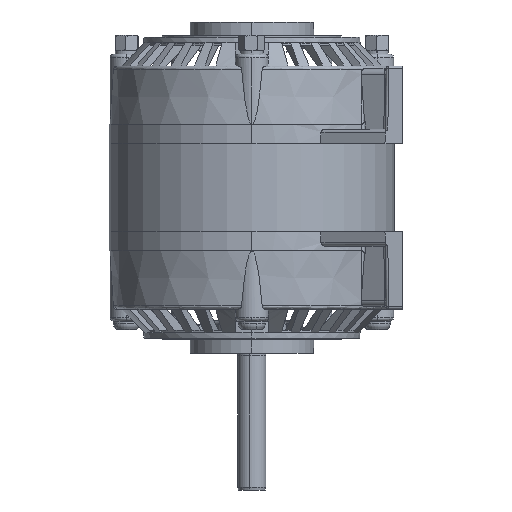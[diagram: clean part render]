
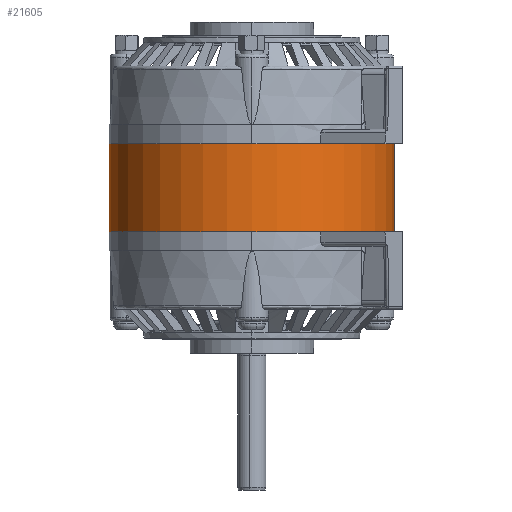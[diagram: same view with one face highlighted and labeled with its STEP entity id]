
A CAD part, left-side view. The second image highlights one B-rep face of the part: STEP entity #21605.
In plain terms, the highlighted cylindrical face has radius 40.5 mm (diameter 81 mm), a partial arc.
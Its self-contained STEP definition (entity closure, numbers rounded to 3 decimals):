
#612 = CARTESIAN_POINT ( 'NONE',  ( 93.327, 37.974, 36.102 ) ) ;
#1775 = EDGE_CURVE ( 'NONE', #42765, #17143, #7870, .T. ) ;
#4612 = DIRECTION ( 'NONE',  ( 0., -1., 0. ) ) ;
#5130 = DIRECTION ( 'NONE',  ( 0., -1., 0. ) ) ;
#5363 = AXIS2_PLACEMENT_3D ( 'NONE', #49148, #8607, #4612 ) ;
#6272 = CARTESIAN_POINT ( 'NONE',  ( 93.327, 78.474, 36.102 ) ) ;
#7870 = LINE ( 'NONE', #22164, #22198 ) ;
#8607 = DIRECTION ( 'NONE',  ( 0., 0., -1. ) ) ;
#10333 = EDGE_LOOP ( 'NONE', ( #22387, #22041, #47436, #20795 ) ) ;
#10982 = CIRCLE ( 'NONE', #11014, 40.5 ) ;
#11014 = AXIS2_PLACEMENT_3D ( 'NONE', #612, #13401, #5130 ) ;
#13401 = DIRECTION ( 'NONE',  ( 0., 0., -1. ) ) ;
#13943 = DIRECTION ( 'NONE',  ( 0., -1., 0. ) ) ;
#15415 = CARTESIAN_POINT ( 'NONE',  ( 93.327, -2.526, 11.102 ) ) ;
#16447 = CARTESIAN_POINT ( 'NONE',  ( 93.327, -2.526, 23.602 ) ) ;
#16805 = CARTESIAN_POINT ( 'NONE',  ( 93.327, 78.474, 11.102 ) ) ;
#17143 = VERTEX_POINT ( 'NONE', #16805 ) ;
#20099 = FACE_OUTER_BOUND ( 'NONE', #10333, .T. ) ;
#20795 = ORIENTED_EDGE ( 'NONE', *, *, #39674, .F. ) ;
#20837 = VERTEX_POINT ( 'NONE', #40856 ) ;
#21605 = ADVANCED_FACE ( 'NONE', ( #20099 ), #32786, .T. ) ;
#22041 = ORIENTED_EDGE ( 'NONE', *, *, #1775, .T. ) ;
#22164 = CARTESIAN_POINT ( 'NONE',  ( 93.327, 78.474, 23.602 ) ) ;
#22198 = VECTOR ( 'NONE', #50461, 1000. ) ;
#22387 = ORIENTED_EDGE ( 'NONE', *, *, #26805, .T. ) ;
#24333 = EDGE_CURVE ( 'NONE', #33672, #17143, #26096, .T. ) ;
#26096 = CIRCLE ( 'NONE', #37128, 40.5 ) ;
#26805 = EDGE_CURVE ( 'NONE', #20837, #42765, #10982, .T. ) ;
#32786 = CYLINDRICAL_SURFACE ( 'NONE', #5363, 40.5 ) ;
#33672 = VERTEX_POINT ( 'NONE', #15415 ) ;
#37128 = AXIS2_PLACEMENT_3D ( 'NONE', #50513, #49980, #13943 ) ;
#39674 = EDGE_CURVE ( 'NONE', #20837, #33672, #40707, .T. ) ;
#40707 = LINE ( 'NONE', #16447, #40804 ) ;
#40804 = VECTOR ( 'NONE', #40957, 1000. ) ;
#40856 = CARTESIAN_POINT ( 'NONE',  ( 93.327, -2.526, 36.102 ) ) ;
#40957 = DIRECTION ( 'NONE',  ( 0., 0., -1. ) ) ;
#42765 = VERTEX_POINT ( 'NONE', #6272 ) ;
#47436 = ORIENTED_EDGE ( 'NONE', *, *, #24333, .F. ) ;
#49148 = CARTESIAN_POINT ( 'NONE',  ( 93.327, 37.974, 23.602 ) ) ;
#49980 = DIRECTION ( 'NONE',  ( 0., 0., -1. ) ) ;
#50461 = DIRECTION ( 'NONE',  ( 0., 0., -1. ) ) ;
#50513 = CARTESIAN_POINT ( 'NONE',  ( 93.327, 37.974, 11.102 ) ) ;
